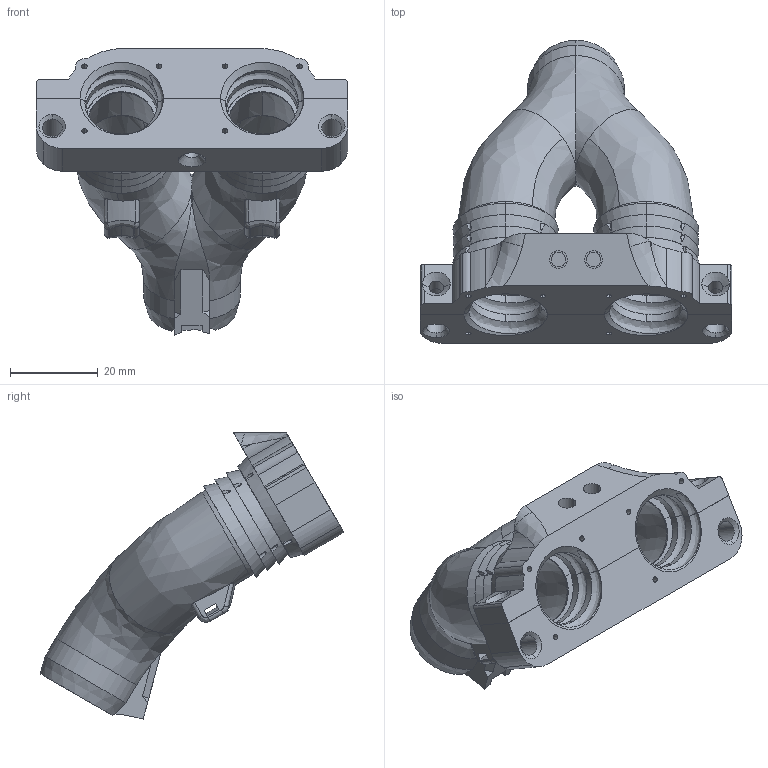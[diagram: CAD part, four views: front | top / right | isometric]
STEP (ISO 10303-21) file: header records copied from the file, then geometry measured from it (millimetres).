
FILE_DESCRIPTION (( 'STEP AP214' ), '1' );
FILE_NAME ('vostok_v9.0a3_assembly v25.STEP', '2026-03-03T15:29:57', ( '' ), ( '' ), 'SwSTEP 2.0', 'SolidWorks 2025', '' );
FILE_SCHEMA (( 'AUTOMOTIVE_DESIGN' ));
Length unit declared in the file: millimetre
Products named in the file (8): vostok_v9.0a3_assembly v25; vostok_v9.0a3_assembly.step_1; V9-60 - Additions.step_1; V9-620 - ws7040 install.step_1; vostok_v9.0a3_assembly v25(2); vostok_v9.0a3_assembly v25.step_1; V9-623 - ws7040 splitter.step_1
Assembly tree (7 placements, depth 8):
  vostok_v9.0a3_assembly v25
    vostok_v9.0a3_assembly v25(2)
      vostok_v9.0a3_assembly v25(2)
        vostok_v9.0a3_assembly v25.step_1
          vostok_v9.0a3_assembly.step_1
            V9-60 - Additions.step_1
              V9-620 - ws7040 install.step_1
                V9-623 - ws7040 splitter.step_1
Bounding box: 71 x 69.09 x 65.23 mm (x, y, z)
Volume: 28556.9 mm3; surface area: 22358.2 mm2
Topology: 2 solids, 2 shells, 460 faces, 1276 edges, 828 vertices
Faces by surface type: cylinder 183, plane 128, bspline 97, cone 46, torus 6
Entity records: 31739 total; most frequent: CARTESIAN_POINT 20352, ORIENTED_EDGE 2546, DIRECTION 2121, EDGE_CURVE 1273, AXIS2_PLACEMENT_3D 831, VERTEX_POINT 828, EDGE_LOOP 511, ADVANCED_FACE 460
